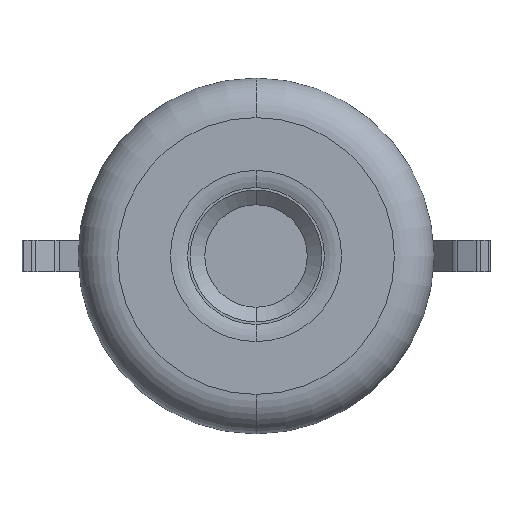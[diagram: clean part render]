
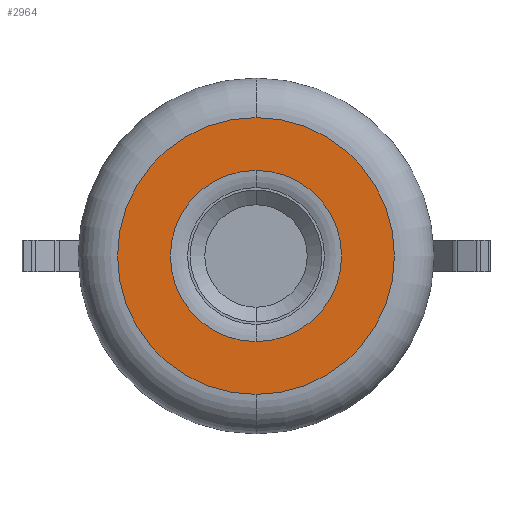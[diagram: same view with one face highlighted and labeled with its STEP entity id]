
A CAD part, front view. The second image highlights one B-rep face of the part: STEP entity #2964.
In plain terms, the highlighted planar face has unit normal (0, -1, 0).
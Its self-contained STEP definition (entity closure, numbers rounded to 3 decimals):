
#200 = ORIENTED_EDGE ( 'NONE', *, *, #1540, .T. ) ;
#233 = AXIS2_PLACEMENT_3D ( 'NONE', #2686, #888, #1872 ) ;
#268 = CARTESIAN_POINT ( 'NONE',  ( 0., 0., 21.655 ) ) ;
#365 = ORIENTED_EDGE ( 'NONE', *, *, #877, .T. ) ;
#409 = ORIENTED_EDGE ( 'NONE', *, *, #588, .T. ) ;
#423 = DIRECTION ( 'NONE',  ( 0., 1., 0. ) ) ;
#529 = CARTESIAN_POINT ( 'NONE',  ( 0., 0., 0. ) ) ;
#572 = VERTEX_POINT ( 'NONE', #3161 ) ;
#588 = EDGE_CURVE ( 'NONE', #1269, #1377, #1163, .T. ) ;
#740 = EDGE_LOOP ( 'NONE', ( #200, #365 ) ) ;
#771 = PLANE ( 'NONE',  #3065 ) ;
#877 = EDGE_CURVE ( 'NONE', #572, #2987, #2448, .T. ) ;
#888 = DIRECTION ( 'NONE',  ( 0., -1., 0. ) ) ;
#963 = DIRECTION ( 'NONE',  ( 0., 1., 0. ) ) ;
#1081 = CARTESIAN_POINT ( 'NONE',  ( 0., 0., 0. ) ) ;
#1163 = CIRCLE ( 'NONE', #1212, 21.655 ) ;
#1180 = EDGE_LOOP ( 'NONE', ( #409, #2423 ) ) ;
#1212 = AXIS2_PLACEMENT_3D ( 'NONE', #1659, #2863, #2391 ) ;
#1269 = VERTEX_POINT ( 'NONE', #268 ) ;
#1294 = CARTESIAN_POINT ( 'NONE',  ( 0., 0., 35. ) ) ;
#1377 = VERTEX_POINT ( 'NONE', #1452 ) ;
#1452 = CARTESIAN_POINT ( 'NONE',  ( 0., 0., -21.655 ) ) ;
#1508 = DIRECTION ( 'NONE',  ( 0., 0., 1. ) ) ;
#1540 = EDGE_CURVE ( 'NONE', #2987, #572, #2444, .T. ) ;
#1578 = CIRCLE ( 'NONE', #3043, 21.655 ) ;
#1659 = CARTESIAN_POINT ( 'NONE',  ( 0., 0., 0. ) ) ;
#1872 = DIRECTION ( 'NONE',  ( 0., 0., 1. ) ) ;
#2062 = DIRECTION ( 'NONE',  ( 0., -1., 0. ) ) ;
#2196 = FACE_OUTER_BOUND ( 'NONE', #740, .T. ) ;
#2353 = EDGE_CURVE ( 'NONE', #1377, #1269, #1578, .T. ) ;
#2384 = DIRECTION ( 'NONE',  ( 0., 0., 1. ) ) ;
#2391 = DIRECTION ( 'NONE',  ( 0., 0., 1. ) ) ;
#2423 = ORIENTED_EDGE ( 'NONE', *, *, #2353, .T. ) ;
#2444 = CIRCLE ( 'NONE', #3036, 35. ) ;
#2448 = CIRCLE ( 'NONE', #233, 35. ) ;
#2686 = CARTESIAN_POINT ( 'NONE',  ( 0., 0., 0. ) ) ;
#2863 = DIRECTION ( 'NONE',  ( 0., 1., 0. ) ) ;
#2964 = ADVANCED_FACE ( 'NONE', ( #3000, #2196 ), #771, .F. ) ;
#2987 = VERTEX_POINT ( 'NONE', #1294 ) ;
#3000 = FACE_BOUND ( 'NONE', #1180, .T. ) ;
#3036 = AXIS2_PLACEMENT_3D ( 'NONE', #1081, #2062, #3071 ) ;
#3043 = AXIS2_PLACEMENT_3D ( 'NONE', #3211, #423, #2384 ) ;
#3065 = AXIS2_PLACEMENT_3D ( 'NONE', #529, #963, #1508 ) ;
#3071 = DIRECTION ( 'NONE',  ( 0., 0., 1. ) ) ;
#3161 = CARTESIAN_POINT ( 'NONE',  ( 0., 0., -35. ) ) ;
#3211 = CARTESIAN_POINT ( 'NONE',  ( 0., 0., 0. ) ) ;
